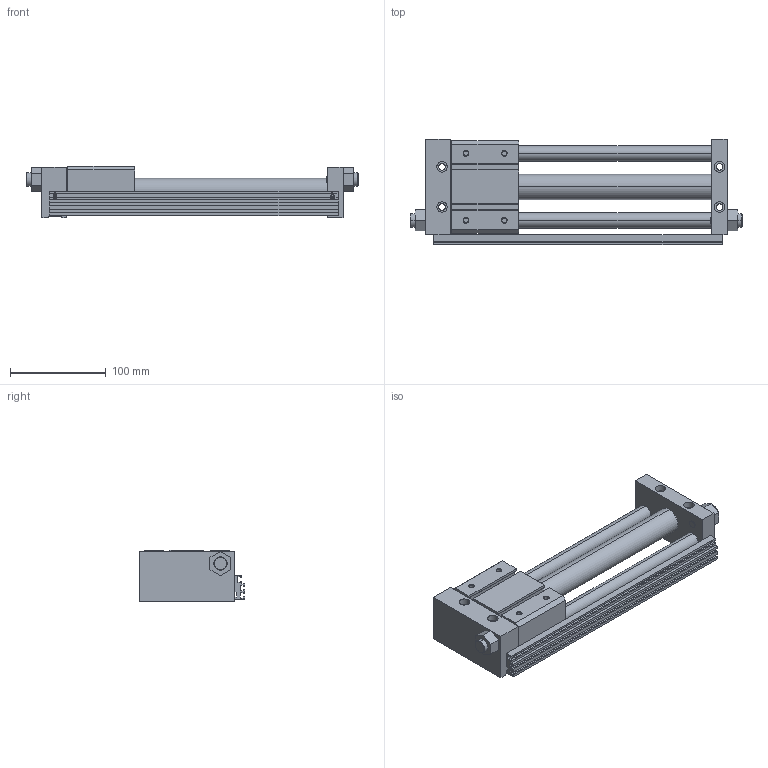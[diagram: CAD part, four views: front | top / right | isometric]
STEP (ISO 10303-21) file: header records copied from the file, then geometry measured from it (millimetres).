
FILE_DESCRIPTION((''),'2;1');
FILE_NAME('C:\Documents and Settings\Administrator\桌面\GYS\GYS25\GYSR25X200.stp','2012-03-06T11:00:55',('Administrator'),(''),'Autodesk Inventor 8','Autodesk Inventor 8','');
FILE_SCHEMA(('AUTOMOTIVE_DESIGN { 1 0 10303 214 1 1 1 1 }'));
Length unit declared in the file: millimetre
Products named in the file (3): GYSR25X200; GYS25X200; GYS25160X200
Assembly tree (2 placements, depth 2):
  GYSR25X200
    GYS25X200
    GYS25160X200
Bounding box: 347 x 110.5 x 54 mm (x, y, z)
Volume: 779962.9 mm3; surface area: 146386.9 mm2
Topology: 2 solids, 2 shells, 276 faces, 718 edges, 468 vertices
Faces by surface type: plane 154, cylinder 80, cone 32, bspline 10
Entity records: 8662 total; most frequent: CARTESIAN_POINT 1609, DIRECTION 1476, ORIENTED_EDGE 1436, EDGE_CURVE 718, VECTOR 502, LINE 502, AXIS2_PLACEMENT_3D 487, VERTEX_POINT 468
